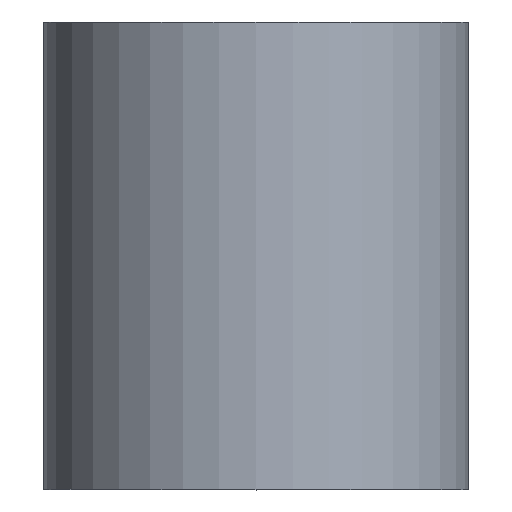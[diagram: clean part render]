
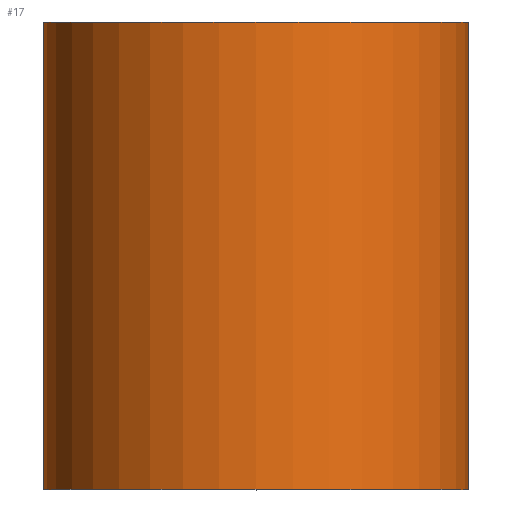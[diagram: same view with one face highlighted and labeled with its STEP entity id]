
A CAD part, top view. The second image highlights one B-rep face of the part: STEP entity #17.
In plain terms, the highlighted cylindrical face has radius 5 mm (diameter 10 mm), a full revolution.
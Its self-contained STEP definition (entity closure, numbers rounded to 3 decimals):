
#17 = ADVANCED_FACE('',(#18),#31,.T.);
#18 = FACE_BOUND('',#19,.T.);
#19 = EDGE_LOOP('',(#20,#54,#77,#104));
#20 = ORIENTED_EDGE('',*,*,#21,.F.);
#21 = EDGE_CURVE('',#22,#22,#24,.T.);
#22 = VERTEX_POINT('',#23);
#23 = CARTESIAN_POINT('',(105.,-35.,-90.));
#24 = SURFACE_CURVE('',#25,(#30,#42),.PCURVE_S1.);
#25 = CIRCLE('',#26,5.);
#26 = AXIS2_PLACEMENT_3D('',#27,#28,#29);
#27 = CARTESIAN_POINT('',(105.,-35.,-95.));
#28 = DIRECTION('',(0.,1.,0.));
#29 = DIRECTION('',(0.,-0.,1.));
#30 = PCURVE('',#31,#36);
#31 = CYLINDRICAL_SURFACE('',#32,5.);
#32 = AXIS2_PLACEMENT_3D('',#33,#34,#35);
#33 = CARTESIAN_POINT('',(105.,-46.,-95.));
#34 = DIRECTION('',(0.,1.,0.));
#35 = DIRECTION('',(0.,-0.,1.));
#36 = DEFINITIONAL_REPRESENTATION('',(#37),#41);
#37 = LINE('',#38,#39);
#38 = CARTESIAN_POINT('',(0.,11.));
#39 = VECTOR('',#40,1.);
#40 = DIRECTION('',(1.,0.));
#41 = ( GEOMETRIC_REPRESENTATION_CONTEXT(2) 
PARAMETRIC_REPRESENTATION_CONTEXT() REPRESENTATION_CONTEXT('2D SPACE',''
  ) );
#42 = PCURVE('',#43,#48);
#43 = PLANE('',#44);
#44 = AXIS2_PLACEMENT_3D('',#45,#46,#47);
#45 = CARTESIAN_POINT('',(105.,-35.,-95.));
#46 = DIRECTION('',(0.,1.,0.));
#47 = DIRECTION('',(0.,-0.,1.));
#48 = DEFINITIONAL_REPRESENTATION('',(#49),#53);
#49 = CIRCLE('',#50,5.);
#50 = AXIS2_PLACEMENT_2D('',#51,#52);
#51 = CARTESIAN_POINT('',(0.,0.));
#52 = DIRECTION('',(1.,0.));
#53 = ( GEOMETRIC_REPRESENTATION_CONTEXT(2) 
PARAMETRIC_REPRESENTATION_CONTEXT() REPRESENTATION_CONTEXT('2D SPACE',''
  ) );
#54 = ORIENTED_EDGE('',*,*,#55,.F.);
#55 = EDGE_CURVE('',#56,#22,#58,.T.);
#56 = VERTEX_POINT('',#57);
#57 = CARTESIAN_POINT('',(105.,-46.,-90.));
#58 = SEAM_CURVE('',#59,(#63,#70),.PCURVE_S1.);
#59 = LINE('',#60,#61);
#60 = CARTESIAN_POINT('',(105.,-46.,-90.));
#61 = VECTOR('',#62,1.);
#62 = DIRECTION('',(0.,1.,0.));
#63 = PCURVE('',#31,#64);
#64 = DEFINITIONAL_REPRESENTATION('',(#65),#69);
#65 = LINE('',#66,#67);
#66 = CARTESIAN_POINT('',(6.283,-0.));
#67 = VECTOR('',#68,1.);
#68 = DIRECTION('',(0.,1.));
#69 = ( GEOMETRIC_REPRESENTATION_CONTEXT(2) 
PARAMETRIC_REPRESENTATION_CONTEXT() REPRESENTATION_CONTEXT('2D SPACE',''
  ) );
#70 = PCURVE('',#31,#71);
#71 = DEFINITIONAL_REPRESENTATION('',(#72),#76);
#72 = LINE('',#73,#74);
#73 = CARTESIAN_POINT('',(0.,-0.));
#74 = VECTOR('',#75,1.);
#75 = DIRECTION('',(0.,1.));
#76 = ( GEOMETRIC_REPRESENTATION_CONTEXT(2) 
PARAMETRIC_REPRESENTATION_CONTEXT() REPRESENTATION_CONTEXT('2D SPACE',''
  ) );
#77 = ORIENTED_EDGE('',*,*,#78,.T.);
#78 = EDGE_CURVE('',#56,#56,#79,.T.);
#79 = SURFACE_CURVE('',#80,(#85,#92),.PCURVE_S1.);
#80 = CIRCLE('',#81,5.);
#81 = AXIS2_PLACEMENT_3D('',#82,#83,#84);
#82 = CARTESIAN_POINT('',(105.,-46.,-95.));
#83 = DIRECTION('',(0.,1.,0.));
#84 = DIRECTION('',(0.,-0.,1.));
#85 = PCURVE('',#31,#86);
#86 = DEFINITIONAL_REPRESENTATION('',(#87),#91);
#87 = LINE('',#88,#89);
#88 = CARTESIAN_POINT('',(0.,0.));
#89 = VECTOR('',#90,1.);
#90 = DIRECTION('',(1.,0.));
#91 = ( GEOMETRIC_REPRESENTATION_CONTEXT(2) 
PARAMETRIC_REPRESENTATION_CONTEXT() REPRESENTATION_CONTEXT('2D SPACE',''
  ) );
#92 = PCURVE('',#93,#98);
#93 = PLANE('',#94);
#94 = AXIS2_PLACEMENT_3D('',#95,#96,#97);
#95 = CARTESIAN_POINT('',(105.,-46.,-95.));
#96 = DIRECTION('',(0.,1.,0.));
#97 = DIRECTION('',(0.,-0.,1.));
#98 = DEFINITIONAL_REPRESENTATION('',(#99),#103);
#99 = CIRCLE('',#100,5.);
#100 = AXIS2_PLACEMENT_2D('',#101,#102);
#101 = CARTESIAN_POINT('',(0.,0.));
#102 = DIRECTION('',(1.,0.));
#103 = ( GEOMETRIC_REPRESENTATION_CONTEXT(2) 
PARAMETRIC_REPRESENTATION_CONTEXT() REPRESENTATION_CONTEXT('2D SPACE',''
  ) );
#104 = ORIENTED_EDGE('',*,*,#55,.T.);
